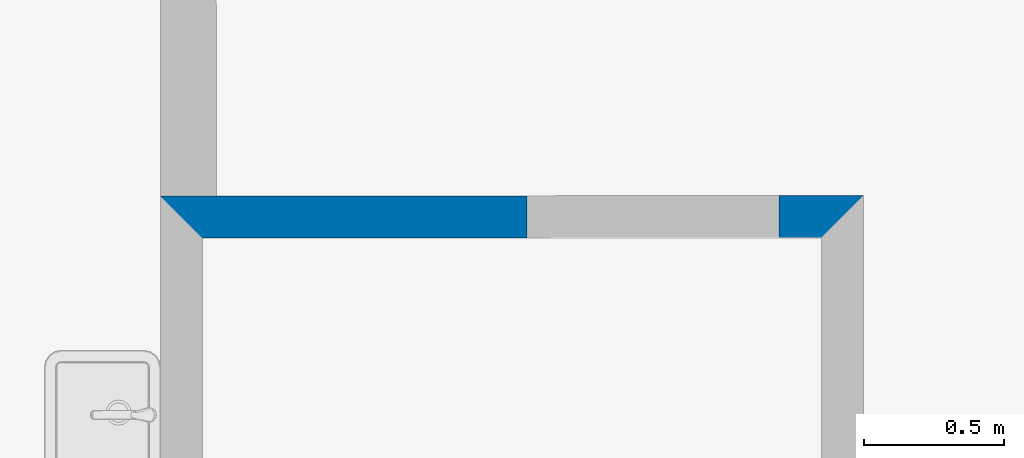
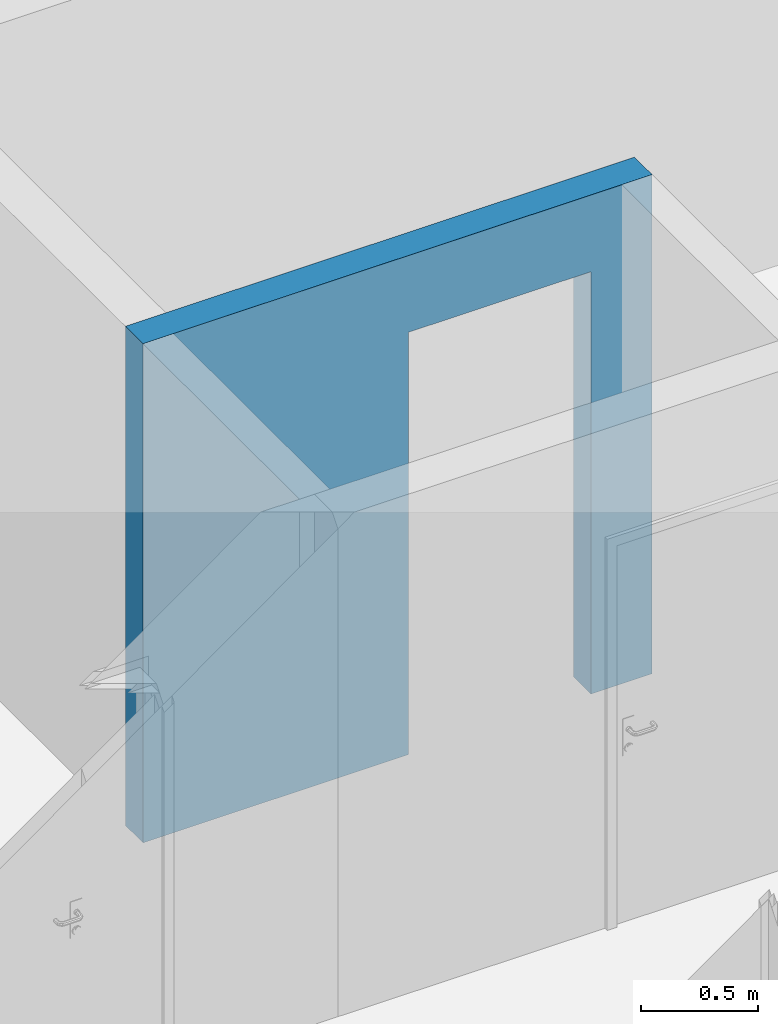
# One storey, part 53 of 127: 1 wall.
"""IFC2X3 building model written with IfcOpenShell, lengths in millimetres."""

from ifc_helpers import new_model, entity, si_unit, converted_unit, derived_unit, money_unit, direction, frame, origin_with_axes, place, context, subcontext, project, spatial, polyline, outline, extrude, boolean, faceted_brep, material, type_object, element, save


model = new_model("IFC2X3")

# Units and contexts
model_context = context("Model", 3, precision=1e-05, world=origin_with_axes(), true_north=direction((0.0, 1.0)))
body_context = subcontext(model_context, "Body", "Model", "MODEL_VIEW")
ifc_project = project(units=[si_unit("LENGTHUNIT", "METRE", prefix="MILLI"), si_unit("AREAUNIT", "SQUARE_METRE"), si_unit("VOLUMEUNIT", "CUBIC_METRE"), converted_unit("PLANEANGLEUNIT", "DEGREE", entity("IfcPlaneAngleMeasure", 0.0174532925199), si_unit("PLANEANGLEUNIT", "RADIAN"), dimensions=[0, 0, 0, 0, 0, 0, 0]), si_unit("SOLIDANGLEUNIT", "STERADIAN"), money_unit("EUR"), converted_unit("TIMEUNIT", "Year", entity("IfcTimeMeasure", 31556926.0), si_unit("TIMEUNIT", "SECOND"), dimensions=[0, 0, 1, 0, 0, 0, 0]), si_unit("MASSUNIT", "GRAM", prefix="KILO"), si_unit("THERMODYNAMICTEMPERATUREUNIT", "DEGREE_CELSIUS"), si_unit("LUMINOUSINTENSITYUNIT", "LUMEN"), si_unit("ENERGYUNIT", "JOULE", prefix="MEGA"), derived_unit("THERMALCONDUCTANCEUNIT", [(si_unit("POWERUNIT", "WATT"), 1), (si_unit("LENGTHUNIT", "METRE"), -1), (si_unit("THERMODYNAMICTEMPERATUREUNIT", "KELVIN"), -1)]), derived_unit("SPECIFICHEATCAPACITYUNIT", [(si_unit("ENERGYUNIT", "JOULE"), 1), (si_unit("MASSUNIT", "GRAM", prefix="KILO"), -1), (si_unit("THERMODYNAMICTEMPERATUREUNIT", "KELVIN"), -1)]), derived_unit("MASSDENSITYUNIT", [(si_unit("MASSUNIT", "GRAM", prefix="KILO"), 1), (si_unit("VOLUMEUNIT", "CUBIC_METRE"), -1)])], contexts=[model_context])

# Site, building, storey
site_placement = place(None, origin_with_axes())
site = spatial("IfcSite", under=ifc_project, at=site_placement, Name="Site", CompositionType="ELEMENT")
building_placement = place(site_placement, origin_with_axes())
building = spatial("IfcBuilding", under=site, at=building_placement, Name="Building", CompositionType="ELEMENT")
storey_placement = place(building_placement, origin_with_axes())
storey = spatial("IfcBuildingStorey", under=building, at=storey_placement, Name="1 KORRUS", CompositionType="ELEMENT", Elevation=0.0)

# Wall
ifc_material = material(Name="Kivi -Ol.Olev Konstruktsioon")
wall_type = type_object("IfcWallType", Name="SW - 036", PredefinedType="NOTDEFINED")
wall_placement = place(storey_placement, frame((72593.6242701, 44395.4222831, 0.0), z_axis=(0.0, 0.0, 1.0), x_axis=(-0.99999925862, -0.00121768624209, 0.0)))
element("IfcWall", 1, at=wall_placement, inside=storey, type_object=wall_type, material=ifc_material, Name="ol.olev ss 150", context=body_context, shape_type="CSG", body=[
    boolean("DIFFERENCE", boolean("DIFFERENCE", boolean("DIFFERENCE", extrude(outline(polyline([(0.0, 0.0), (2510.7184751, 0.0), (2510.7184751, 150.0), (-1.13686837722e-10, 150.000000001), (0.0, 0.0)])), origin_with_axes(), (0.0, 0.0, 1.0), 2600.0), faceted_brep([(2510.7184751, 150.0, 2600.0), (2510.53582203, 0.0, 2600.0), (2510.7184751, 0.0, 2600.0), (2510.53582203, 0.0, 0.0), (2510.7184751, 150.0, 0.0), (2510.7184751, 0.0, 0.0)], [[[0, 1, 2]], [[3, 1, 0, 4]], [[1, 3, 5, 2]], [[4, 0, 2, 5]], [[3, 4, 5]]])), faceted_brep([(1201.57945234, 149.999999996, 2200.0), (1201.57945234, 149.999999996, 0.0), (301.579452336, 150.0, 0.0), (301.579452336, 150.0, 2200.0), (1201.57945234, -4.54747350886e-09, 2200.0), (1201.57945234, -4.54747350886e-09, 0.0), (301.579452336, 0.0, 0.0), (301.579452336, 0.0, 2200.0)], [[[0, 1, 2, 3]], [[1, 0, 4, 5]], [[6, 2, 1, 5]], [[3, 2, 6, 7]], [[0, 3, 7, 4]], [[7, 6, 5, 4]]])), faceted_brep([(0.0, 0.0, 0.0), (0.0, 0.0, 2600.0), (-2.27373675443e-10, 150.000000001, 2600.0), (-2.27373675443e-10, 150.000000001, 0.0), (0.182653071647, 150.0, 2600.0), (0.182653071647, 150.0, 0.0)], [[[0, 1, 2, 3]], [[4, 1, 0, 5]], [[1, 4, 2]], [[4, 5, 3, 2]], [[5, 0, 3]]])),
])

save(model, "model.ifc")
